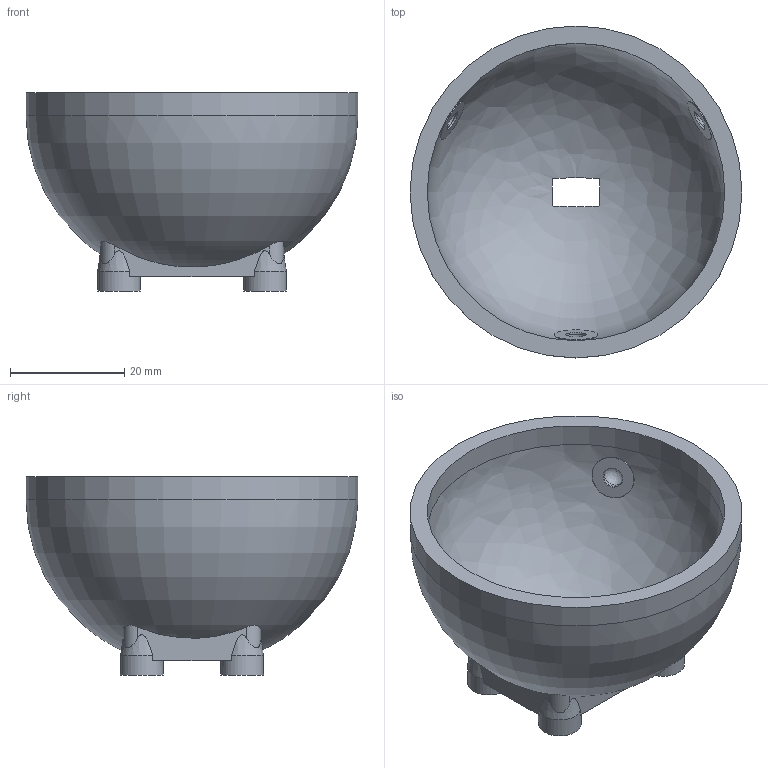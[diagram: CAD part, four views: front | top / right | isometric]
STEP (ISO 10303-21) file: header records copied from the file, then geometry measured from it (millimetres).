
FILE_DESCRIPTION(('Open CASCADE Model'),'2;1');
FILE_NAME('Open CASCADE Shape Model','2026-05-31T19:43:10',('Author'),( 'Open CASCADE'),'Open CASCADE STEP processor 7.6','Open CASCADE 7.6' ,'Unknown');
FILE_SCHEMA(('AP242_MANAGED_MODEL_BASED_3D_ENGINEERING_MIM_LF. {1 0 10303 442 1 1 4 }'));
Length unit declared in the file: millimetre
Products named in the file (1): Open CASCADE STEP translator 7.6 6
Bounding box: 58 x 58 x 34.6 mm (x, y, z)
Volume: 17506.1 mm3; surface area: 12383.7 mm2
Topology: 1 solids, 1 shells, 65 faces, 153 edges, 101 vertices
Faces by surface type: cylinder 27, plane 22, revolution 8, bspline 4, cone 4
Full cylindrical faces by diameter (mm): 3.5 x4, 3.57 x3, 3.572 x3, 7.5 x4, 7.57 x3, 52 x1, 58 x1
Entity records: 8273 total; most frequent: CARTESIAN_POINT 5266, DIRECTION 537, ORIENTED_EDGE 300, PCURVE 300, DEFINITIONAL_REPRESENTATION 300, LINE 251, VECTOR 251, EDGE_CURVE 150
